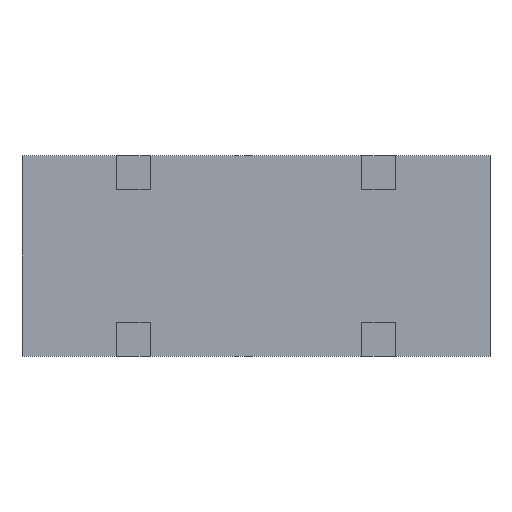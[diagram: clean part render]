
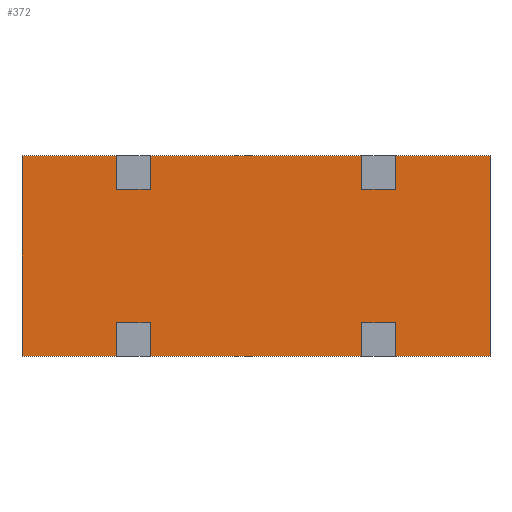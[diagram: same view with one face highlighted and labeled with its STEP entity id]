
A CAD part, top view. The second image highlights one B-rep face of the part: STEP entity #372.
In plain terms, the highlighted planar face has unit normal (0, 0, 1).
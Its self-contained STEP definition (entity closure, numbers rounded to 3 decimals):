
#58 = VERTEX_POINT('',#59);
#59 = CARTESIAN_POINT('',(-42.,-18.,2.));
#66 = PLANE('',#67);
#67 = AXIS2_PLACEMENT_3D('',#68,#69,#70);
#68 = CARTESIAN_POINT('',(-42.,-18.,-2.));
#69 = DIRECTION('',(1.,0.,-0.));
#70 = DIRECTION('',(0.,0.,1.));
#78 = PLANE('',#79);
#79 = AXIS2_PLACEMENT_3D('',#80,#81,#82);
#80 = CARTESIAN_POINT('',(-42.,-18.,-2.));
#81 = DIRECTION('',(-0.,1.,0.));
#82 = DIRECTION('',(0.,0.,1.));
#119 = VERTEX_POINT('',#120);
#120 = CARTESIAN_POINT('',(-42.,18.,2.));
#134 = PLANE('',#135);
#135 = AXIS2_PLACEMENT_3D('',#136,#137,#138);
#136 = CARTESIAN_POINT('',(-42.,18.,-2.));
#137 = DIRECTION('',(-0.,1.,0.));
#138 = DIRECTION('',(0.,0.,1.));
#146 = EDGE_CURVE('',#58,#119,#147,.T.);
#147 = SURFACE_CURVE('',#148,(#152,#159),.PCURVE_S1.);
#148 = LINE('',#149,#150);
#149 = CARTESIAN_POINT('',(-42.,-18.,2.));
#150 = VECTOR('',#151,1.);
#151 = DIRECTION('',(-0.,1.,0.));
#152 = PCURVE('',#66,#153);
#153 = DEFINITIONAL_REPRESENTATION('',(#154),#158);
#154 = LINE('',#155,#156);
#155 = CARTESIAN_POINT('',(4.,0.));
#156 = VECTOR('',#157,1.);
#157 = DIRECTION('',(0.,-1.));
#158 = ( GEOMETRIC_REPRESENTATION_CONTEXT(2) 
PARAMETRIC_REPRESENTATION_CONTEXT() REPRESENTATION_CONTEXT('2D SPACE',''
  ) );
#159 = PCURVE('',#160,#165);
#160 = PLANE('',#161);
#161 = AXIS2_PLACEMENT_3D('',#162,#163,#164);
#162 = CARTESIAN_POINT('',(-42.,-18.,2.));
#163 = DIRECTION('',(0.,0.,1.));
#164 = DIRECTION('',(1.,0.,-0.));
#165 = DEFINITIONAL_REPRESENTATION('',(#166),#170);
#166 = LINE('',#167,#168);
#167 = CARTESIAN_POINT('',(0.,0.));
#168 = VECTOR('',#169,1.);
#169 = DIRECTION('',(0.,1.));
#170 = ( GEOMETRIC_REPRESENTATION_CONTEXT(2) 
PARAMETRIC_REPRESENTATION_CONTEXT() REPRESENTATION_CONTEXT('2D SPACE',''
  ) );
#178 = VERTEX_POINT('',#179);
#179 = CARTESIAN_POINT('',(42.,-18.,2.));
#186 = PLANE('',#187);
#187 = AXIS2_PLACEMENT_3D('',#188,#189,#190);
#188 = CARTESIAN_POINT('',(42.,-18.,-2.));
#189 = DIRECTION('',(1.,0.,-0.));
#190 = DIRECTION('',(0.,0.,1.));
#229 = VERTEX_POINT('',#230);
#230 = CARTESIAN_POINT('',(42.,18.,2.));
#251 = EDGE_CURVE('',#178,#229,#252,.T.);
#252 = SURFACE_CURVE('',#253,(#257,#264),.PCURVE_S1.);
#253 = LINE('',#254,#255);
#254 = CARTESIAN_POINT('',(42.,-18.,2.));
#255 = VECTOR('',#256,1.);
#256 = DIRECTION('',(-0.,1.,0.));
#257 = PCURVE('',#186,#258);
#258 = DEFINITIONAL_REPRESENTATION('',(#259),#263);
#259 = LINE('',#260,#261);
#260 = CARTESIAN_POINT('',(4.,0.));
#261 = VECTOR('',#262,1.);
#262 = DIRECTION('',(0.,-1.));
#263 = ( GEOMETRIC_REPRESENTATION_CONTEXT(2) 
PARAMETRIC_REPRESENTATION_CONTEXT() REPRESENTATION_CONTEXT('2D SPACE',''
  ) );
#264 = PCURVE('',#160,#265);
#265 = DEFINITIONAL_REPRESENTATION('',(#266),#270);
#266 = LINE('',#267,#268);
#267 = CARTESIAN_POINT('',(84.,0.));
#268 = VECTOR('',#269,1.);
#269 = DIRECTION('',(0.,1.));
#270 = ( GEOMETRIC_REPRESENTATION_CONTEXT(2) 
PARAMETRIC_REPRESENTATION_CONTEXT() REPRESENTATION_CONTEXT('2D SPACE',''
  ) );
#297 = EDGE_CURVE('',#58,#178,#298,.T.);
#298 = SURFACE_CURVE('',#299,(#303,#310),.PCURVE_S1.);
#299 = LINE('',#300,#301);
#300 = CARTESIAN_POINT('',(-42.,-18.,2.));
#301 = VECTOR('',#302,1.);
#302 = DIRECTION('',(1.,0.,-0.));
#303 = PCURVE('',#78,#304);
#304 = DEFINITIONAL_REPRESENTATION('',(#305),#309);
#305 = LINE('',#306,#307);
#306 = CARTESIAN_POINT('',(4.,0.));
#307 = VECTOR('',#308,1.);
#308 = DIRECTION('',(0.,1.));
#309 = ( GEOMETRIC_REPRESENTATION_CONTEXT(2) 
PARAMETRIC_REPRESENTATION_CONTEXT() REPRESENTATION_CONTEXT('2D SPACE',''
  ) );
#310 = PCURVE('',#160,#311);
#311 = DEFINITIONAL_REPRESENTATION('',(#312),#316);
#312 = LINE('',#313,#314);
#313 = CARTESIAN_POINT('',(0.,0.));
#314 = VECTOR('',#315,1.);
#315 = DIRECTION('',(1.,0.));
#316 = ( GEOMETRIC_REPRESENTATION_CONTEXT(2) 
PARAMETRIC_REPRESENTATION_CONTEXT() REPRESENTATION_CONTEXT('2D SPACE',''
  ) );
#344 = EDGE_CURVE('',#119,#229,#345,.T.);
#345 = SURFACE_CURVE('',#346,(#350,#357),.PCURVE_S1.);
#346 = LINE('',#347,#348);
#347 = CARTESIAN_POINT('',(-42.,18.,2.));
#348 = VECTOR('',#349,1.);
#349 = DIRECTION('',(1.,0.,-0.));
#350 = PCURVE('',#134,#351);
#351 = DEFINITIONAL_REPRESENTATION('',(#352),#356);
#352 = LINE('',#353,#354);
#353 = CARTESIAN_POINT('',(4.,0.));
#354 = VECTOR('',#355,1.);
#355 = DIRECTION('',(0.,1.));
#356 = ( GEOMETRIC_REPRESENTATION_CONTEXT(2) 
PARAMETRIC_REPRESENTATION_CONTEXT() REPRESENTATION_CONTEXT('2D SPACE',''
  ) );
#357 = PCURVE('',#160,#358);
#358 = DEFINITIONAL_REPRESENTATION('',(#359),#363);
#359 = LINE('',#360,#361);
#360 = CARTESIAN_POINT('',(0.,36.));
#361 = VECTOR('',#362,1.);
#362 = DIRECTION('',(1.,0.));
#363 = ( GEOMETRIC_REPRESENTATION_CONTEXT(2) 
PARAMETRIC_REPRESENTATION_CONTEXT() REPRESENTATION_CONTEXT('2D SPACE',''
  ) );
#372 = ADVANCED_FACE('',(#373),#160,.T.);
#373 = FACE_BOUND('',#374,.T.);
#374 = EDGE_LOOP('',(#375,#376,#377,#378));
#375 = ORIENTED_EDGE('',*,*,#146,.F.);
#376 = ORIENTED_EDGE('',*,*,#297,.T.);
#377 = ORIENTED_EDGE('',*,*,#251,.T.);
#378 = ORIENTED_EDGE('',*,*,#344,.F.);
